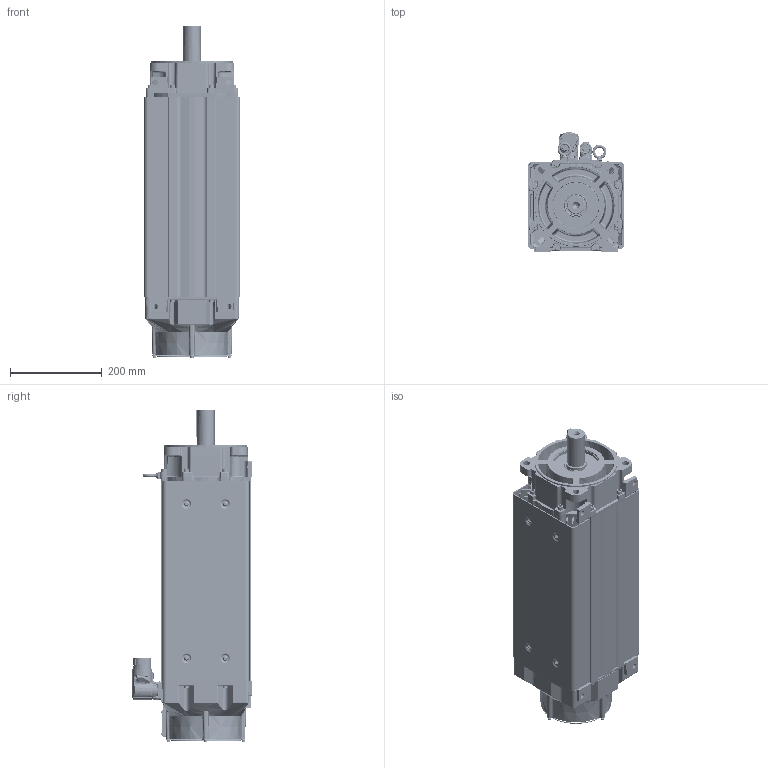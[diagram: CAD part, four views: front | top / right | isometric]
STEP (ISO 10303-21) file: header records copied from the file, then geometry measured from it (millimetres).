
FILE_DESCRIPTION((''),'2;1');
FILE_NAME('VPC-B2155D-SJ74FX_ASM','2016-09-27T',('SRGaddam'),('Rockwell Automation'),'PRO/ENGINEER BY PARAMETRIC TECHNOLOGY CORPORATION, 2012480','PRO/ENGINEER BY PARAMETRIC TECHNOLOGY CORPORATION, 2012480','');
FILE_SCHEMA(('CONFIG_CONTROL_DESIGN'));
Products named in the file (47): 10001238886_AF0; 10001298482_AF22; 10001284445_ASM; CH31X150; 10001371539; 10000569218; 10001416313; 10001587021; 10001257630_AF255; 10001300098_AF227; 10001284488_ASM; 10001289764; 10002069468; 10001935397; 10001713570; 10001713572_ASM; 91290A150BR; 10001289776; CH4X050; 10001587458; 91290A115; 10001336508; 10001409703; 10001299929; 10001284567; 10001518963; 91290A148BR; 10001587431; 91290A139BR; 10000231113; 10001289808_ASM; 10001609981; 0002-5005; 10001586886; 10001369859; 0011-2066; 142403; 125284; 142403-1_ASM; 221404-Q12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
Assembly tree (88 placements, depth 4):
  VPC-B2155D-SJ74FX_ASM
    10001284445_ASM
      10001238886_AF0
      10001298482_AF22
    CH31X150  x8
    10001371539
    10000569218
    10001416313  x2
    10001587021  x8
    10001284488_ASM
      10001257630_AF255
      10001300098_AF227
    10001289808_ASM
      10001289764
      10002069468
      10001713572_ASM
        10001935397
        10001713570
      91290A150BR  x4
      10001289776
      CH4X050  x2
      10001587458
      91290A115  x5
      10001336508
      10001409703
      10001299929
      10001284567
      10001518963
      91290A148BR  x8
      10001587431
      91290A139BR
      10000231113
    10001609981
    0002-5005  x2
    10001586886  x6
    10001369859
    0011-2066
    M940_ASM
      142403-1_ASM
        142403
        125284
      221404-Q12  x4
    M623_ASM
      142414-1_623_ASM
        142414_623
        135798_623
      10000172464  x4
Bounding box: 210.91 x 260.15 x 722.61 mm (x, y, z)
Volume: 6836844 mm3; surface area: 2225186.6 mm2
Topology: 89 solids, 89 shells, 7424 faces, 17818 edges, 10875 vertices
Faces by surface type: plane 2179, cylinder 1993, bspline 1408, cone 977, torus 688, sphere 143, revolution 30, extrusion 6
Entity records: 252088 total; most frequent: CARTESIAN_POINT 116361, ORIENTED_EDGE 29464, DIRECTION 26318, EDGE_CURVE 14732, AXIS2_PLACEMENT_3D 10381, VERTEX_POINT 9114, EDGE_LOOP 6614, FACE_OUTER_BOUND 6065
